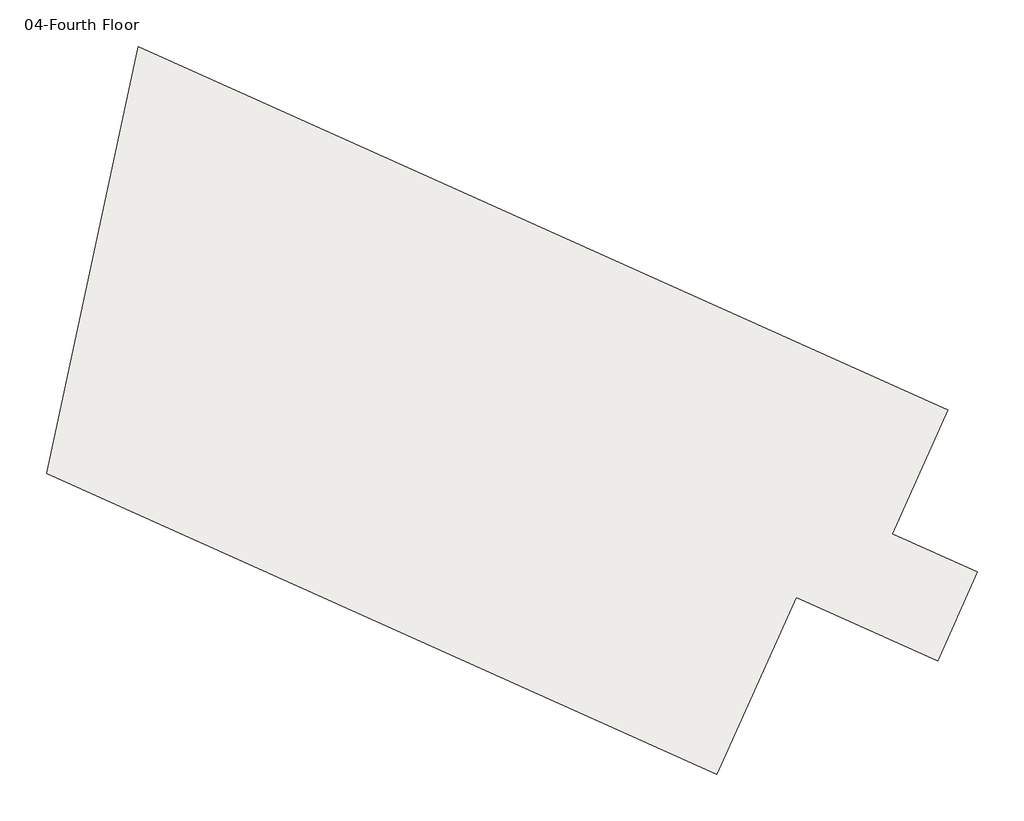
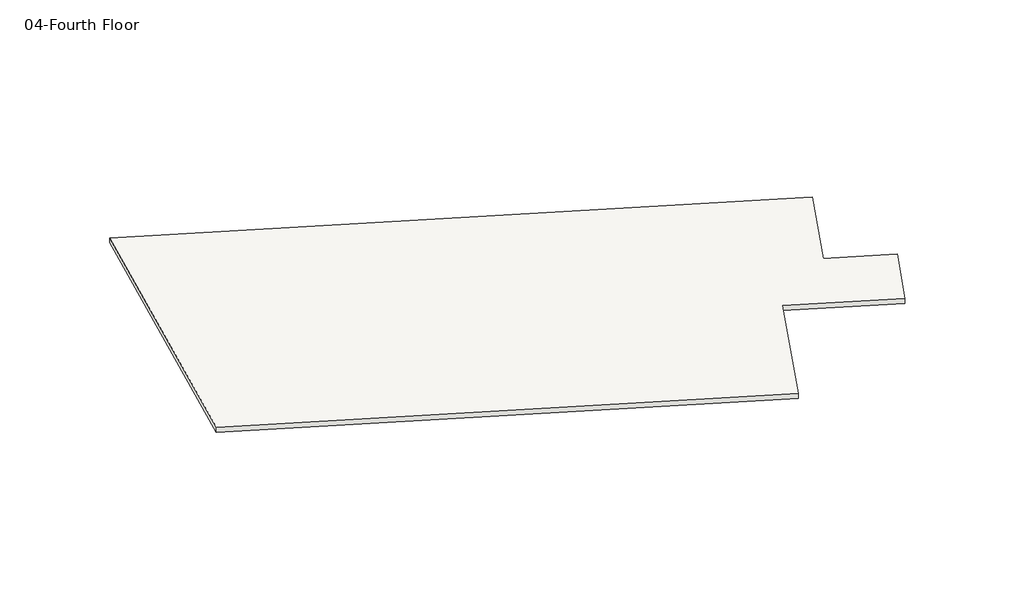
# One storey: 1 slab.
"""IFC4 building model written with IfcOpenShell, lengths in millimetres."""

import ifcopenshell
import ifcopenshell.guid

model = None  # the IFC model being written
_history = None  # IfcOwnerHistory: only IFC2X3 demands one
_inside = {}  # id of a spatial element -> (the spatial element, [elements in it])
_under = {}  # id of a project, library or spatial element -> (it, [spatial elements below it])
_declared = {}  # id of a project -> (the project, [libraries it declares])
_typed = {}  # id of a type object -> (the type object, [elements of that type])
_made_of = {}  # id of a material, layer set ... -> (it, [elements and type objects made of it])


def new_model(schema):
    """Start an empty IFC model of exactly this schema.

    Asked for "IFC4X3", IfcOpenShell would pick the latest addendum, in which some entities
    have other attributes; the version numbers below select the first issue.
    IFC2X3 requires an IfcOwnerHistory on every rooted entity: one is made here for all.
    """
    global model, _history
    if schema == "IFC4X3":
        model = ifcopenshell.file(schema_version=(4, 3, 0, 0))
    else:
        model = ifcopenshell.file(schema=schema)
    _inside.clear()
    _under.clear()
    _declared.clear()
    _typed.clear()
    _made_of.clear()
    _history = None
    if model.schema == "IFC2X3":
        org = make("IfcOrganization", Name="unknown")
        user = make(
            "IfcPersonAndOrganization",
            ThePerson=make("IfcPerson", FamilyName="unknown"),
            TheOrganization=org,
        )
        app = make(
            "IfcApplication",
            ApplicationDeveloper=org,
            Version="unknown",
            ApplicationFullName="unknown",
            ApplicationIdentifier="unknown",
        )
        _history = make(
            "IfcOwnerHistory",
            OwningUser=user,
            OwningApplication=app,
            ChangeAction="ADDED",
            CreationDate=0,
        )
    return model


def make(cls, **values):
    """One entity of the class cls with the attributes given. An attribute that is None is left unset."""
    return model.create_entity(
        cls, **{name: value for name, value in values.items() if value is not None}
    )


def rooted(cls, **values):
    """An entity with a GlobalId (a new one), such as an element, a storey or a relation."""
    return make(cls, GlobalId=ifcopenshell.guid.new(), OwnerHistory=_history, **values)


def si_unit(unit_type, name, prefix=None):
    """IfcSIUnit, for example si_unit("LENGTHUNIT", "METRE", prefix="MILLI")."""
    return make("IfcSIUnit", UnitType=unit_type, Prefix=prefix, Name=name)


def assignment(units):
    """IfcUnitAssignment: the units of a project."""
    return None if units is None else make("IfcUnitAssignment", Units=units)


def point(xyz):
    """IfcCartesianPoint."""
    return None if xyz is None else make("IfcCartesianPoint", Coordinates=xyz)


def direction(xyz):
    """IfcDirection."""
    return None if xyz is None else make("IfcDirection", DirectionRatios=xyz)


def frame(location, z_axis=None, x_axis=None):
    """IfcAxis2Placement3D, a coordinate frame: its origin and axes. An axis left out is left unset."""
    return make(
        "IfcAxis2Placement3D",
        Location=point(location),
        Axis=direction(z_axis),
        RefDirection=direction(x_axis),
    )


def origin():
    """The frame at (0, 0, 0) with its axes left unset."""
    return frame((0.0, 0.0, 0.0))


def place(relative_to, where):
    """IfcLocalPlacement: puts the frame where relative to a parent placement (None: the world)."""
    return make(
        "IfcLocalPlacement", PlacementRelTo=relative_to, RelativePlacement=where
    )


def context(
    kind, dimensions, precision=None, world=None, true_north=None, identifier=None
):
    """IfcGeometricRepresentationContext, for example the 3D "Model" context."""
    return make(
        "IfcGeometricRepresentationContext",
        ContextIdentifier=identifier,
        ContextType=kind,
        CoordinateSpaceDimension=dimensions,
        Precision=precision,
        WorldCoordinateSystem=world,
        TrueNorth=true_north,
    )


def project(units=None, contexts=None):
    """IfcProject with its units and contexts."""
    return rooted(
        "IfcProject",
        Name="project",
        RepresentationContexts=contexts,
        UnitsInContext=assignment(units),
    )


def spatial(cls, under=None, at=None, **own):
    """A site, building, storey or space (cls), placed at a placement, below another one or the project."""
    s = rooted(cls, ObjectPlacement=at, **own)
    if under is not None:
        _under.setdefault(under.id(), (under, []))[1].append(s)
    return s


def polyline(points):
    """IfcPolyline through the points."""
    return make("IfcPolyline", Points=[point(p) for p in points])


def outline(outer, holes=None, kind="AREA"):
    """IfcArbitraryClosedProfileDef: a profile drawn as a closed curve; with holes, ...WithVoids."""
    if holes is None:
        return make("IfcArbitraryClosedProfileDef", ProfileType=kind, OuterCurve=outer)
    return make(
        "IfcArbitraryProfileDefWithVoids",
        ProfileType=kind,
        OuterCurve=outer,
        InnerCurves=holes,
    )


def extrude(swept, where, along, depth):
    """IfcExtrudedAreaSolid: the profile swept, set in the frame where, extruded along a direction by depth."""
    return make(
        "IfcExtrudedAreaSolid",
        SweptArea=swept,
        Position=where,
        ExtrudedDirection=direction(along),
        Depth=depth,
    )


def shape(context_of_items, identifier, shape_type, items):
    """IfcShapeRepresentation: the items that make up one representation, for example the "Body"."""
    return make(
        "IfcShapeRepresentation",
        ContextOfItems=context_of_items,
        RepresentationIdentifier=identifier,
        RepresentationType=shape_type,
        Items=items,
    )


def made_of(thing, what):
    """Note that an element or type object is made of a material, layer set ...; save() writes the relation."""
    if what is not None:
        _made_of.setdefault(what.id(), (what, []))[1].append(thing)
    return thing


def element(
    cls,
    number,
    at=None,
    inside=None,
    cuts=None,
    type_object=None,
    material=None,
    context=None,
    identifier="Body",
    shape_type=None,
    held_by="IfcProductDefinitionShape",
    body=None,
    shapes=None,
    **own,
):
    """One element of the class cls, such as IfcWall. Its Tag is "e" and its number.

    at: its placement. inside: the storey or other place that contains it. cuts: it is an
    opening in that element (IfcRelVoidsElement). A single representation is given by context,
    identifier, shape_type and body (its items); several are given by shapes. held_by: the class
    of the entity that holds the representations. save() writes the other relations.
    """
    e = rooted(cls, Tag="e%d" % number, ObjectPlacement=at, **own)
    if body is not None:
        shapes = [shape(context, identifier, shape_type, body)]
    if shapes is not None:
        e.Representation = make(held_by, Representations=shapes)
    if inside is not None:
        _inside.setdefault(inside.id(), (inside, []))[1].append(e)
    if cuts is not None:
        rooted(
            "IfcRelVoidsElement", RelatingBuildingElement=cuts, RelatedOpeningElement=e
        )
    if type_object is not None:
        _typed.setdefault(type_object.id(), (type_object, []))[1].append(e)
    return made_of(e, material)


def aggregate(whole, parts):
    """IfcRelAggregates: a whole, such as a stair, and the parts it consists of."""
    return rooted("IfcRelAggregates", RelatingObject=whole, RelatedObjects=parts)


def save(model, path):
    """Write the relations noted so far, then the file.

    IfcRelAggregates (storeys below a building ...), IfcRelContainedInSpatialStructure (elements
    in a storey), IfcRelDefinesByType, IfcRelAssociatesMaterial and IfcRelDeclares: one each for
    every whole, place, type object, material and project.
    """
    for whole, parts in _under.values():
        aggregate(whole, parts)
    for where, things in _inside.values():
        rooted(
            "IfcRelContainedInSpatialStructure",
            RelatedElements=things,
            RelatingStructure=where,
        )
    for kind, things in _typed.values():
        rooted("IfcRelDefinesByType", RelatedObjects=things, RelatingType=kind)
    for what, things in _made_of.values():
        rooted("IfcRelAssociatesMaterial", RelatedObjects=things, RelatingMaterial=what)
    for by, libraries in _declared.values():
        rooted("IfcRelDeclares", RelatingContext=by, RelatedDefinitions=libraries)
    model.write(path)


model = new_model("IFC4")

# Units and contexts
model_context = context("Model", 3, world=origin())
ifc_project = project(units=[si_unit("LENGTHUNIT", "METRE", prefix="MILLI")], contexts=[model_context])

# Site, building, storey
site = spatial("IfcSite", under=ifc_project)
building = spatial("IfcBuilding", under=site)
storey = spatial("IfcBuildingStorey", under=building, Name="04-Fourth Floor", Elevation=13411.2)

# Slab
placement = place(None, origin())
element("IfcSlab", 1, ObjectType="RC Slab 10\"", at=placement, inside=storey, context=model_context, shape_type="SweptSolid", body=[
    extrude(outline(polyline([(58160.2438961, -12032.9092683), (56297.2468229, -16180.2956098), (59147.1268229, -17460.4556098), (57809.7238961, -20437.7692683), (53083.0936522, -18314.5770732), (50423.8995059, -24234.4497561), (27969.0958822, -14147.8), (31033.4244536, 152.4), (58160.2438961, -12032.9092683)])), frame((0.0, 0.0, 13157.2), z_axis=(0.0, 0.0, 1.0), x_axis=(1.0, 0.0, 0.0)), (0.0, 0.0, 1.0), 254.0),
])

save(model, "model.ifc")
